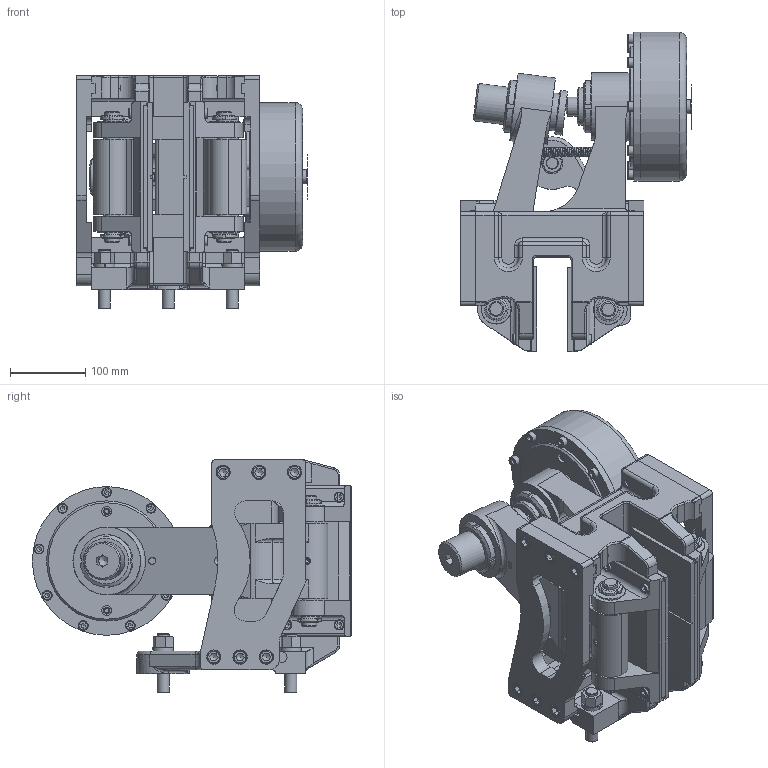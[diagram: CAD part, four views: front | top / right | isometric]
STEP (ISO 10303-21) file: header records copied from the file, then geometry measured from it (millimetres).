
FILE_DESCRIPTION(/* description */ ('','CAx-IF Rec.Pracs.---Representation and Presentation of Product Manufacturing Information (PMI)---4.0---2014-10-13'),/* implementation_level */ '2;1');
FILE_NAME(/* name */ 'X:\INVENTOR\DISEGNI\19_Pinze\STEP x Sito\PNEUM-POSITIVE\19_16_064_06 PPT064_40.stp',/* time_stamp */ '2018-10-25T15:48:08+02:00',/* author */ ('stefano'),/* organization */ (''),/* preprocessor_version */ 'ST-DEVELOPER v17',/* originating_system */ 'Autodesk Inventor 2018',/* authorisation */ '');
FILE_SCHEMA (('AP242_MANAGED_MODEL_BASED_3D_ENGINEERING_MIM_LF { 1 0 10303 442 1 1 4 }'));
Length unit declared in the file: millimetre
Products named in the file (1): 19_16_064_06 PPT064_40_Substitute_2
Bounding box: 307.1 x 425 x 310 mm (x, y, z)
Volume: 10346908.1 mm3; surface area: 1003255.3 mm2
Topology: 1 solids, 1 shells, 1649 faces, 4476 edges, 2881 vertices
Faces by surface type: plane 826, cylinder 449, torus 163, cone 160, bspline 31, sphere 20
Full cylindrical faces by diameter (mm): 1.8 x2, 2.5 x1, 7.4 x1, 7.5 x2, 8 x9, 8.376 x1, 8.5 x8, 8.917 x2, 9 x1, 9.188 x1, 10 x2, 10.106 x8, 10.5 x4, 10.647 x2, 12 x12, 12.5 x12, 13 x19, 13.5 x8, 14 x1, 16 x6, 16.5 x4, 17 x3, 18 x13, 18.631 x1, 19 x12, 20 x12, 22 x6, 25 x3, 28 x1, 33.6 x1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
Entity records: 61175 total; most frequent: CARTESIAN_POINT 18059, ORIENTED_EDGE 8822, DIRECTION 8808, EDGE_CURVE 4411, AXIS2_PLACEMENT_3D 3339, VERTEX_POINT 2881, LINE 2130, VECTOR 2130
